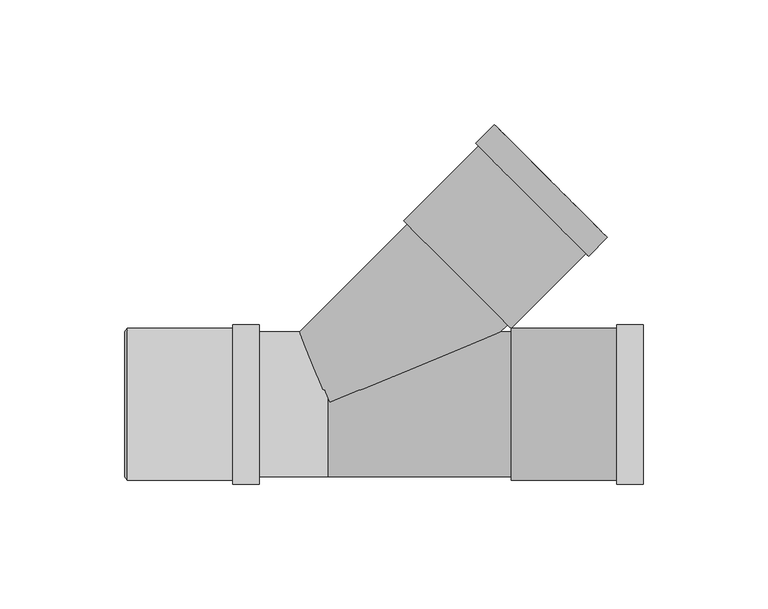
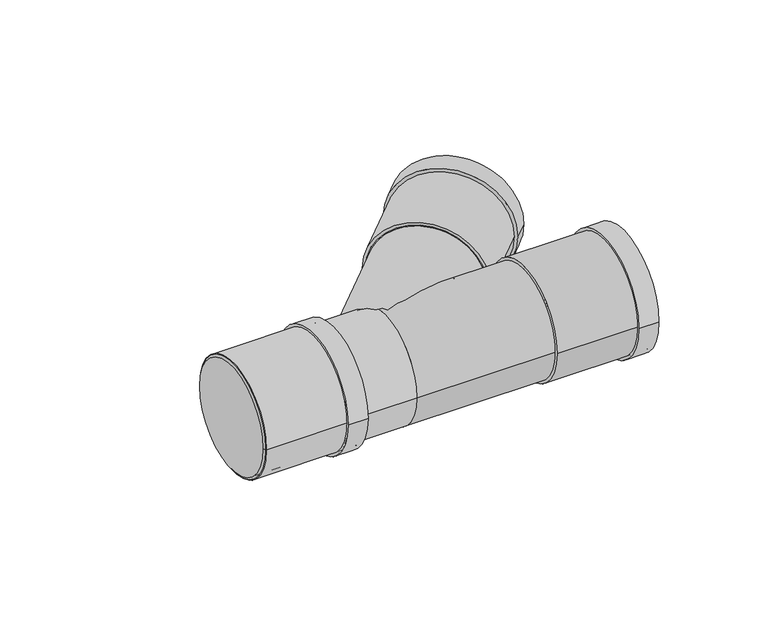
"""IFC4 building model written with IfcOpenShell, lengths in millimetres: pipe fitting geometry, Superdrain SKEA Branch : Superdrain SKEA Branch."""

from ifc_helpers import new_model, si_unit, point, frame, origin, origin_2d, place, context, project, spatial, polyline, circle_curve, ellipse_curve, trimmed, segment, composite_curve, outline, extrude, source, transform, mapped, element, save
from ifc_brep_helpers import plane_surface, cylinder_surface, revolved_surface, advanced_brep


def pipe_fitting_b7e72581(model_context):
    return source(origin(), model_context, "Body", "SolidModel", [
        extrude(outline(composite_curve([segment(trimmed(circle_curve(origin_2d(), 30.45), [point((30.45, 0.0))], [point((-30.45, 0.0))], False, "CARTESIAN"), True, "CONTINUOUS"), segment(trimmed(circle_curve(origin_2d(), 30.45), [point((-30.45, 0.0))], [point((30.45, 0.0))], False, "CARTESIAN"), True, "CONTINUOUS")], self_intersect=False), holes=[composite_curve([segment(trimmed(circle_curve(origin_2d(), 29.0), [point((29.0, 0.0))], [point((-29.0, 0.0))], True, "CARTESIAN"), True, "CONTINUOUS"), segment(trimmed(circle_curve(origin_2d(), 29.0), [point((-29.0, 0.0))], [point((29.0, 0.0))], True, "CARTESIAN"), True, "CONTINUOUS")], self_intersect=False)]), frame((-80.4, 0.0, 0.0), z_axis=(1.0, 0.0, 0.0), x_axis=(0.0, 1.0, 0.0)), (0.0, 0.0, 1.0), 53.0),
        extrude(outline(composite_curve([segment(trimmed(circle_curve(origin_2d(), 31.9725), [point((31.9725, 0.0))], [point((-31.9725, 0.0))], False, "CARTESIAN"), True, "CONTINUOUS"), segment(trimmed(circle_curve(origin_2d(), 31.9725), [point((-31.9725, 0.0))], [point((31.9725, 0.0))], False, "CARTESIAN"), True, "CONTINUOUS")], self_intersect=False), holes=[composite_curve([segment(trimmed(circle_curve(origin_2d(), 29.0), [point((29.0, 0.0))], [point((-29.0, 0.0))], True, "CARTESIAN"), True, "CONTINUOUS"), segment(trimmed(circle_curve(origin_2d(), 29.0), [point((-29.0, 0.0))], [point((29.0, 0.0))], True, "CARTESIAN"), True, "CONTINUOUS")], self_intersect=False)]), frame((-38.0, 0.0, 0.0), z_axis=(1.0, 0.0, 0.0), x_axis=(0.0, 1.0, 0.0)), (0.0, 0.0, 1.0), 10.6),
        advanced_brep(
        [(-81.4, 29.0, 0.0), (-81.4, -29.0, 0.0), (-80.4, 30.45, 0.0), (-80.4, -30.45, 0.0)],
        [
            (0, 1, circle_curve(frame((-81.4, 0.0, 0.0), z_axis=(-1.0, 0.0, 0.0), x_axis=(0.0, 1.0, 0.0)), 29.0)),
            (1, 0, circle_curve(frame((-81.4, 0.0, 0.0), z_axis=(-1.0, 0.0, 0.0), x_axis=(0.0, -1.0, 0.0)), 29.0)),
            (2, 3, circle_curve(frame((-80.4, 0.0, 0.0), z_axis=(1.0, 0.0, 0.0), x_axis=(0.0, -1.0, 0.0)), 30.45)),
            (3, 2, circle_curve(frame((-80.4, 0.0, 0.0), z_axis=(1.0, 0.0, 0.0), x_axis=(0.0, 1.0, 0.0)), 30.45)),
            (3, 1),
            (0, 2),
        ],
        [
            plane_surface(frame((-81.4, 0.0, 0.0), z_axis=(-1.0, 0.0, 0.0), x_axis=(0.0, 0.0, -1.0))),
            plane_surface(frame((-80.4, 0.0, 0.0), z_axis=(1.0, 0.0, 0.0), x_axis=(0.0, 0.0, -1.0))),
            revolved_surface(polyline([(-81.4, 28.999999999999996, 0.0), (-80.4, 30.45, 0.0)]), (-101.4, 0.0, 0.0), (1.0, 0.0, 0.0)),
            revolved_surface(polyline([(-81.4, -28.999999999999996, 0.0), (-80.4, -30.45, 0.0)]), (-101.4, 0.0, 0.0), (1.0, 0.0, 0.0)),
        ],
        [
            (0, [[1, 2]]),
            (1, [[3, 4]]),
            (2, [[-4, 5, -1, 6]]),
            (3, [[-3, -6, -2, -5]]),
        ],
    ),
        advanced_brep(
        [(72.1390338, 31.9470844, 0.0), (31.9470844, 72.1390338, 0.0), (-11.7719494, 28.42, 0.0), (0.0, 0.0, 28.42), (68.6119494, 28.42, 0.0), (0.0, 0.0, -28.42)],
        [
            (0, 1, circle_curve(frame((52.0430591, 52.0430591, 0.0), z_axis=(0.7071067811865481, 0.707106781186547, 0.0), x_axis=(-0.707106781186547, 0.7071067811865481, 0.0)), 28.42)),
            (1, 0, circle_curve(frame((52.0430591, 52.0430591, 0.0), z_axis=(0.7071067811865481, 0.707106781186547, 0.0), x_axis=(-0.707106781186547, 0.7071067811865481, 0.0)), 28.42)),
            (1, 2),
            (2, 3, ellipse_curve(frame((0.0, 0.0, 0.0), z_axis=(0.923879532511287, 0.38268343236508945, 0.0), x_axis=(0.38268343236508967, -0.923879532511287, 0.0)), 30.7615863, 28.42)),
            (3, 4, ellipse_curve(frame((0.0, 0.0, 0.0), z_axis=(-0.3826834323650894, 0.9238795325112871, 0.0), x_axis=(-0.9238795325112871, -0.38268343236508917, 0.0)), 74.2650389, 28.42)),
            (4, 0),
            (4, 5, ellipse_curve(frame((0.0, 0.0, 0.0), z_axis=(-0.3826834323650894, 0.9238795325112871, 0.0), x_axis=(-0.9238795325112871, -0.38268343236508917, 0.0)), 74.2650389, 28.42)),
            (5, 2, ellipse_curve(frame((0.0, 0.0, 0.0), z_axis=(0.923879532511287, 0.38268343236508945, 0.0), x_axis=(0.38268343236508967, -0.923879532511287, 0.0)), 30.7615863, 28.42)),
            (2, 4),
        ],
        [
            plane_surface(frame((52.0430591, 52.0430591, 0.0), z_axis=(0.7071067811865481, 0.707106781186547, 0.0), x_axis=(0.0, 0.0, 1.0))),
            cylinder_surface(frame((0.0, 0.0, 0.0), z_axis=(-0.7071067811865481, -0.707106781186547, 0.0), x_axis=(-0.707106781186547, 0.7071067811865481, 0.0)), 28.42),
            revolved_surface(polyline([(-68.61194942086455, 28.42, 0.0), (68.61194942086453, 28.42, 0.0)]), (-85.4, 0.0, 0.0), (-1.0, 0.0, 0.0)),
        ],
        [
            (0, [[1, 2]]),
            (1, [[-2, 3, 4, 5, 6]]),
            (1, [[-1, -6, 7, 8, -3]]),
            (2, [[9, -5, -4]]),
            (2, [[-9, -8, -7]]),
        ],
    ),
        advanced_brep(
        [(73.6, -30.45, 0.0), (73.6, 30.45, 0.0), (126.6, -30.45, 0.0), (126.6, 30.45, 0.0), (126.6, -29.0, 0.0), (126.6, 29.0, 0.0), (74.6, -29.0, 0.0), (74.6, 29.0, 0.0)],
        [
            (0, 1, circle_curve(frame((73.6, 0.0, 0.0), z_axis=(-1.0, 0.0, 0.0), x_axis=(0.0, 1.0, 0.0)), 30.45)),
            (1, 0, circle_curve(frame((73.6, 0.0, 0.0), z_axis=(-1.0, 0.0, 0.0), x_axis=(0.0, 1.0, 0.0)), 30.45)),
            (2, 3, circle_curve(frame((126.6, 0.0, 0.0), z_axis=(1.0, 0.0, 0.0), x_axis=(0.0, 1.0, 0.0)), 30.45)),
            (3, 2, circle_curve(frame((126.6, 0.0, 0.0), z_axis=(1.0, 0.0, 0.0), x_axis=(0.0, 1.0, 0.0)), 30.45)),
            (4, 5, circle_curve(frame((126.6, 0.0, 0.0), z_axis=(-1.0, 0.0, 0.0), x_axis=(0.0, 1.0, 0.0)), 29.0)),
            (5, 4, circle_curve(frame((126.6, 0.0, 0.0), z_axis=(-1.0, 0.0, 0.0), x_axis=(0.0, 1.0, 0.0)), 29.0)),
            (0, 2),
            (3, 1),
            (6, 7, circle_curve(frame((74.6, 0.0, 0.0), z_axis=(-1.0, 0.0, 0.0), x_axis=(0.0, 1.0, 0.0)), 29.0)),
            (7, 5),
            (4, 6),
            (7, 6, circle_curve(frame((74.6, 0.0, 0.0), z_axis=(-1.0, 0.0, 0.0), x_axis=(0.0, 1.0, 0.0)), 29.0)),
        ],
        [
            plane_surface(frame((73.6, 0.0, 0.0), z_axis=(-1.0, 0.0, 0.0), x_axis=(0.0, 0.0, 1.0))),
            plane_surface(frame((126.6, 0.0, 0.0), z_axis=(1.0, 0.0, 0.0), x_axis=(0.0, 0.0, 1.0))),
            cylinder_surface(frame((73.6, 0.0, 0.0), z_axis=(-1.0, 0.0, 0.0), x_axis=(0.0, 1.0, 0.0)), 30.45),
            revolved_surface(polyline([(74.6, 29.0, 0.0), (126.6, 29.0, 0.0)]), (74.6, 0.0, 0.0), (-1.0, 0.0, 0.0)),
            plane_surface(frame((74.6, 0.0, 0.0), z_axis=(1.0, 0.0, 0.0), x_axis=(0.0, 0.0, 1.0))),
        ],
        [
            (0, [[1, 2]]),
            (1, [[3, 4], [5, 6]]),
            (2, [[-1, 7, -4, 8]]),
            (2, [[-2, -8, -3, -7]]),
            (3, [[9, 10, -5, 11]]),
            (3, [[12, -11, -6, -10]]),
            (4, [[-12, -9]]),
        ],
    ),
        extrude(outline(composite_curve([segment(trimmed(circle_curve(origin_2d(), 31.9725), [point((31.9725, 0.0))], [point((-31.9725, 0.0))], False, "CARTESIAN"), True, "CONTINUOUS"), segment(trimmed(circle_curve(origin_2d(), 31.9725), [point((-31.9725, 0.0))], [point((31.9725, 0.0))], False, "CARTESIAN"), True, "CONTINUOUS")], self_intersect=False), holes=[composite_curve([segment(trimmed(circle_curve(origin_2d(), 29.0), [point((29.0, 0.0))], [point((-29.0, 0.0))], True, "CARTESIAN"), True, "CONTINUOUS"), segment(trimmed(circle_curve(origin_2d(), 29.0), [point((-29.0, 0.0))], [point((29.0, 0.0))], True, "CARTESIAN"), True, "CONTINUOUS")], self_intersect=False)]), frame((116.0, 0.0, 0.0), z_axis=(1.0, 0.0, 0.0), x_axis=(0.0, 1.0, 0.0)), (0.0, 0.0, 1.0), 10.6),
        extrude(outline(composite_curve([segment(trimmed(circle_curve(origin_2d(), 29.0), [point((29.0, 0.0))], [point((-29.0, 0.0))], False, "CARTESIAN"), True, "CONTINUOUS"), segment(trimmed(circle_curve(origin_2d(), 29.0), [point((-29.0, 0.0))], [point((29.0, 0.0))], False, "CARTESIAN"), True, "CONTINUOUS")], self_intersect=False)), frame((-80.4, 0.0, 0.0), z_axis=(1.0, 0.0, 0.0), x_axis=(0.0, 1.0, 0.0)), (0.0, 0.0, 1.0), 80.4),
        extrude(outline(composite_curve([segment(trimmed(circle_curve(origin_2d(), 29.0), [point((-29.0, 0.0))], [point((29.0, 0.0))], False, "CARTESIAN"), True, "CONTINUOUS"), segment(trimmed(circle_curve(origin_2d(), 29.0), [point((29.0, 0.0))], [point((-29.0, 0.0))], False, "CARTESIAN"), True, "CONTINUOUS")], self_intersect=False)), frame((0.0, 0.0, 0.0), z_axis=(1.0, 0.0, 0.0), x_axis=(0.0, 1.0, 0.0)), (0.0, 0.0, 1.0), 73.6),
        extrude(outline(composite_curve([segment(trimmed(circle_curve(origin_2d(), 31.9725), [point((0.0, 31.9725))], [point((0.0, -31.9725))], False, "CARTESIAN"), True, "CONTINUOUS"), segment(trimmed(circle_curve(origin_2d(), 31.9725), [point((0.0, -31.9725))], [point((0.0, 31.9725))], False, "CARTESIAN"), True, "CONTINUOUS")], self_intersect=False), holes=[composite_curve([segment(trimmed(circle_curve(origin_2d(), 29.0), [point((0.0, 29.0))], [point((0.0, -29.0))], True, "CARTESIAN"), True, "CONTINUOUS"), segment(trimmed(circle_curve(origin_2d(), 29.0), [point((0.0, -29.0))], [point((0.0, 29.0))], True, "CARTESIAN"), True, "CONTINUOUS")], self_intersect=False)]), frame((82.0243866, 82.0243866, 0.0), z_axis=(0.7071067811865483, 0.7071067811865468, 0.0), x_axis=(0.0, 0.0, 1.0)), (0.0, 0.0, 1.0), 10.6),
        extrude(outline(composite_curve([segment(trimmed(circle_curve(origin_2d(), 30.45), [point((0.0, 30.45))], [point((0.0, -30.45))], False, "CARTESIAN"), True, "CONTINUOUS"), segment(trimmed(circle_curve(origin_2d(), 30.45), [point((0.0, -30.45))], [point((0.0, 30.45))], False, "CARTESIAN"), True, "CONTINUOUS")], self_intersect=False), holes=[composite_curve([segment(trimmed(circle_curve(origin_2d(), 29.0), [point((0.0, 29.0))], [point((0.0, -29.0))], True, "CARTESIAN"), True, "CONTINUOUS"), segment(trimmed(circle_curve(origin_2d(), 29.0), [point((0.0, -29.0))], [point((0.0, 29.0))], True, "CARTESIAN"), True, "CONTINUOUS")], self_intersect=False)]), frame((52.0430591, 52.0430591, 0.0), z_axis=(0.7071067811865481, 0.7071067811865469, 0.0), x_axis=(0.0, 0.0, 1.0)), (0.0, 0.0, 1.0), 53.0),
    ])


if __name__ == "__main__":
    model = new_model("IFC4")
    model_context = context("Model", 3, world=origin())
    ifc_project = project(units=[si_unit("LENGTHUNIT", "METRE", prefix="MILLI")], contexts=[model_context])
    site = spatial("IfcSite", under=ifc_project)
    building = spatial("IfcBuilding", under=site)
    placement = place(None, origin())
    pipe_fitting_shape = pipe_fitting_b7e72581(model_context)
    element("IfcPipeFitting", 1, ObjectType="Superdrain SKEA Branch : Superdrain SKEA Branch", at=placement, inside=building, context=model_context, shape_type="MappedRepresentation", body=[
        mapped(pipe_fitting_shape, transform((0.0, 0.0, 0.0), x_axis=(1.0, 0.0, 0.0), y_axis=(0.0, 1.0, 0.0), z_axis=(0.0, 0.0, 1.0))),
    ])
    save(model, "model.ifc")
